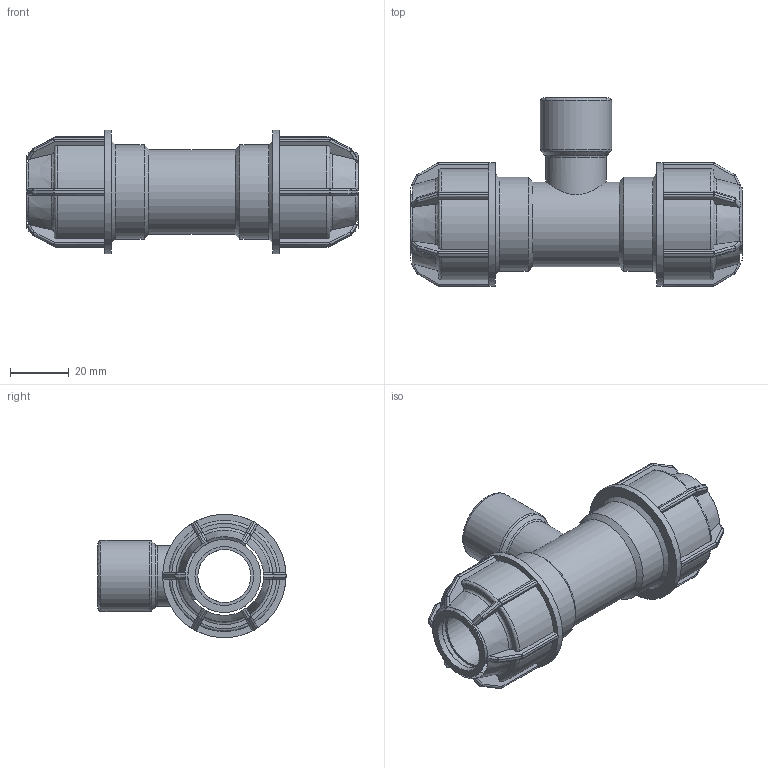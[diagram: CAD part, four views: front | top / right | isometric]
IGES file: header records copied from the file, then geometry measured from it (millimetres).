
Global section: file name: 141400020005.ipt; native system: Autodesk Inventor 2015; preprocessor: unknown; author: KIM; date: 20180416.111601; units: millimetre
Bounding box: 113 x 64 x 42 mm (x, y, z)
Volume: 68494.9 mm3; surface area: 26845.9 mm2
Topology: 1 solids, 1 shells, 412 faces, 996 edges, 583 vertices
Faces by surface type: plane 194, cylinder 115, sphere 48, revolution 38, cone 17
Full cylindrical faces by diameter (mm): 20.587 x1, 24.22 x1, 28.8 x1, 32 x2, 42 x2
